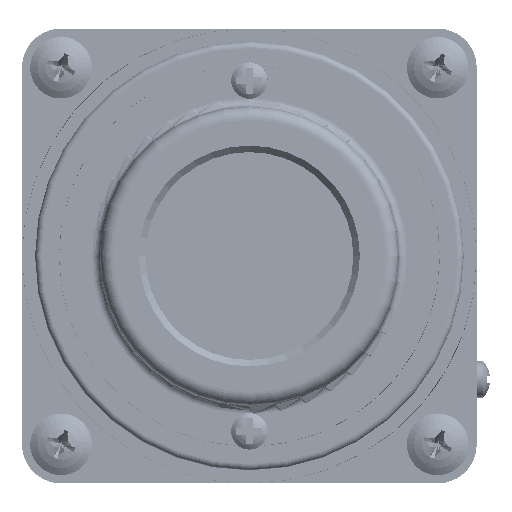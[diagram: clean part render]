
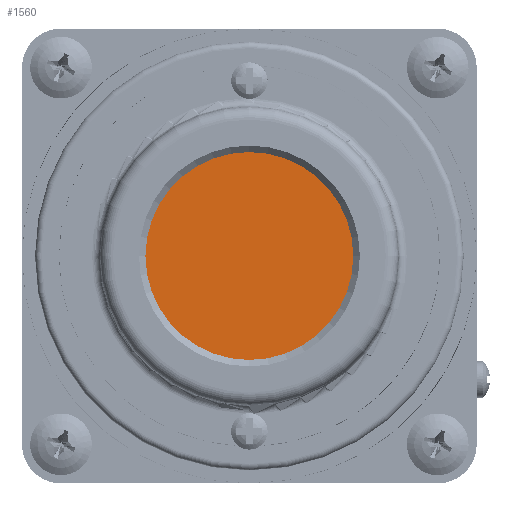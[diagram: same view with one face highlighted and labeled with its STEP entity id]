
A CAD part, left-side view. The second image highlights one B-rep face of the part: STEP entity #1560.
In plain terms, the highlighted planar face has unit normal (-1, 0, 0).
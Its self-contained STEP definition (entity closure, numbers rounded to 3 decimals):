
#1016=FACE_OUTER_BOUND('',#2461,.T.);
#1198=PLANE('',#6034);
#1560=ADVANCED_FACE('',(#1016),#1198,.T.);
#2461=EDGE_LOOP('',(#3619));
#3619=ORIENTED_EDGE('',*,*,#5139,.F.);
#4461=VERTEX_POINT('',#69158);
#5139=EDGE_CURVE('',#4461,#4461,#5557,.T.);
#5557=CIRCLE('',#6033,16.);
#6033=AXIS2_PLACEMENT_3D('',#69157,#7001,#7002);
#6034=AXIS2_PLACEMENT_3D('',#69159,#7003,#7004);
#7001=DIRECTION('',(1.,0.,0.));
#7002=DIRECTION('',(0.,0.,-1.));
#7003=DIRECTION('',(-1.,0.,0.));
#7004=DIRECTION('',(0.,0.,-1.));
#69157=CARTESIAN_POINT('',(-102.,0.,0.));
#69158=CARTESIAN_POINT('',(-102.,0.,-16.));
#69159=CARTESIAN_POINT('',(-102.,0.,0.));
